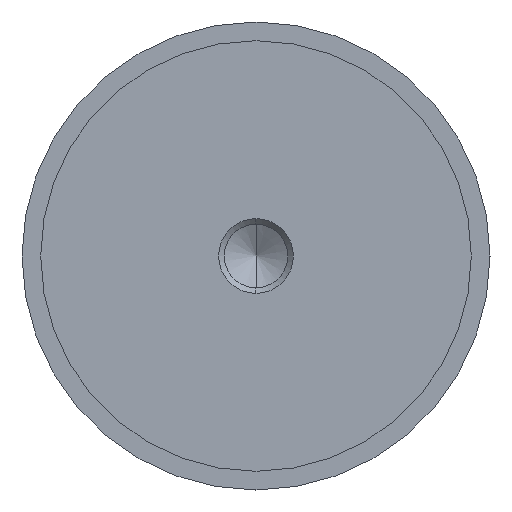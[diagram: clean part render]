
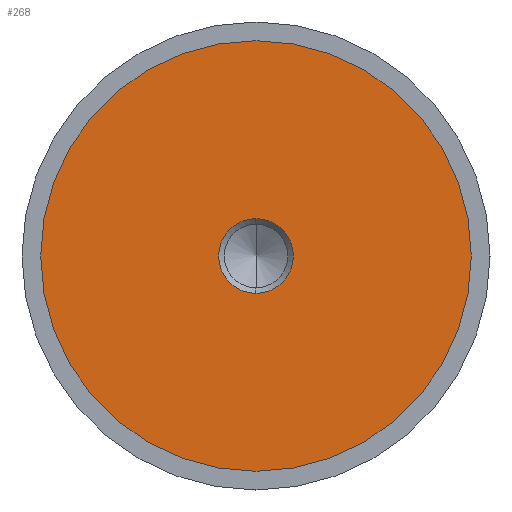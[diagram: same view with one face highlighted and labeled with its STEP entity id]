
A CAD part, left-side view. The second image highlights one B-rep face of the part: STEP entity #268.
In plain terms, the highlighted planar face has unit normal (-1, 0, 0).
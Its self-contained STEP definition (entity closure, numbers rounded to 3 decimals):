
#4 = ORIENTED_EDGE ( 'NONE', *, *, #422, .T. ) ;
#7 = PLANE ( 'NONE',  #682 ) ;
#34 = ORIENTED_EDGE ( 'NONE', *, *, #158, .T. ) ;
#49 = EDGE_CURVE ( 'NONE', #73, #93, #477, .T. ) ;
#73 = VERTEX_POINT ( 'NONE', #88 ) ;
#88 = CARTESIAN_POINT ( 'NONE',  ( -19.99, 0., 34.5 ) ) ;
#93 = VERTEX_POINT ( 'NONE', #219 ) ;
#141 = DIRECTION ( 'NONE',  ( 1., 0., 0. ) ) ;
#152 = CARTESIAN_POINT ( 'NONE',  ( -19.99, 0., -5.99 ) ) ;
#158 = EDGE_CURVE ( 'NONE', #628, #516, #681, .T. ) ;
#162 = EDGE_LOOP ( 'NONE', ( #723, #4 ) ) ;
#172 = DIRECTION ( 'NONE',  ( 1., 0., 0. ) ) ;
#184 = AXIS2_PLACEMENT_3D ( 'NONE', #712, #172, #720 ) ;
#214 = DIRECTION ( 'NONE',  ( -1., 0., 0. ) ) ;
#219 = CARTESIAN_POINT ( 'NONE',  ( -19.99, 0., -34.5 ) ) ;
#241 = ORIENTED_EDGE ( 'NONE', *, *, #447, .T. ) ;
#247 = DIRECTION ( 'NONE',  ( 0., 0., -1. ) ) ;
#251 = DIRECTION ( 'NONE',  ( 1., 0., 0. ) ) ;
#268 = ADVANCED_FACE ( 'NONE', ( #360, #546 ), #7, .F. ) ;
#302 = CARTESIAN_POINT ( 'NONE',  ( -19.99, 0., 5.99 ) ) ;
#335 = DIRECTION ( 'NONE',  ( -1., 0., 0. ) ) ;
#355 = AXIS2_PLACEMENT_3D ( 'NONE', #571, #214, #679 ) ;
#360 = FACE_BOUND ( 'NONE', #460, .T. ) ;
#392 = CARTESIAN_POINT ( 'NONE',  ( -19.99, 0., 0. ) ) ;
#394 = CIRCLE ( 'NONE', #519, 5.99 ) ;
#417 = AXIS2_PLACEMENT_3D ( 'NONE', #392, #335, #632 ) ;
#422 = EDGE_CURVE ( 'NONE', #93, #73, #657, .T. ) ;
#447 = EDGE_CURVE ( 'NONE', #516, #628, #394, .T. ) ;
#460 = EDGE_LOOP ( 'NONE', ( #241, #34 ) ) ;
#477 = CIRCLE ( 'NONE', #355, 34.5 ) ;
#499 = CARTESIAN_POINT ( 'NONE',  ( -19.99, 0., 0. ) ) ;
#516 = VERTEX_POINT ( 'NONE', #302 ) ;
#519 = AXIS2_PLACEMENT_3D ( 'NONE', #499, #141, #613 ) ;
#546 = FACE_OUTER_BOUND ( 'NONE', #162, .T. ) ;
#550 = CARTESIAN_POINT ( 'NONE',  ( -19.99, 34.5, 0. ) ) ;
#571 = CARTESIAN_POINT ( 'NONE',  ( -19.99, 0., 0. ) ) ;
#613 = DIRECTION ( 'NONE',  ( 0., 0., -1. ) ) ;
#628 = VERTEX_POINT ( 'NONE', #152 ) ;
#632 = DIRECTION ( 'NONE',  ( 0., 0., 1. ) ) ;
#657 = CIRCLE ( 'NONE', #417, 34.5 ) ;
#679 = DIRECTION ( 'NONE',  ( 0., 0., 1. ) ) ;
#681 = CIRCLE ( 'NONE', #184, 5.99 ) ;
#682 = AXIS2_PLACEMENT_3D ( 'NONE', #550, #251, #247 ) ;
#712 = CARTESIAN_POINT ( 'NONE',  ( -19.99, 0., 0. ) ) ;
#720 = DIRECTION ( 'NONE',  ( 0., 0., -1. ) ) ;
#723 = ORIENTED_EDGE ( 'NONE', *, *, #49, .T. ) ;
